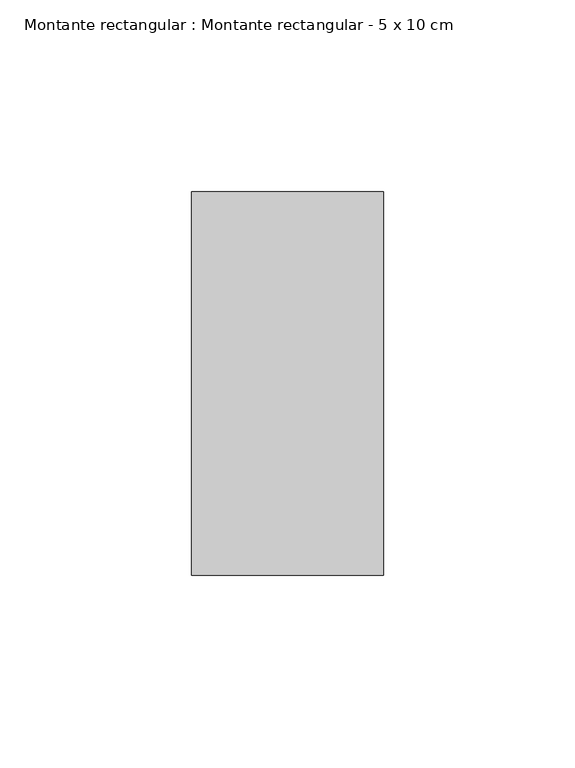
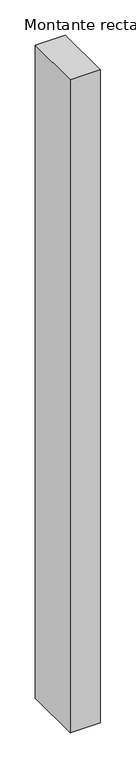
"""IFC4 building model written with IfcOpenShell, lengths in millimetres: member geometry, Montante rectangular : Montante rectangular - 5 x 10 cm."""

from ifc_helpers import new_model, si_unit, frame, origin, place, context, project, spatial, polyline, outline, extrude, source, transform, mapped, element, save


def montante_rectangular_montante_rectangular_5_x_10_cm_1b5bfa0b(model_context):
    return source(origin(), model_context, "Body", "SweptSolid", [
        extrude(outline(polyline([(0.0, 50.0), (0.0, -50.0), (-50.0, -50.0), (-50.0, 50.0), (0.0, 50.0)])), frame((0.0, 0.0, -1136.8719368), z_axis=(0.0, 0.0, 1.0), x_axis=(1.0, 0.0, 0.0)), (0.0, 0.0, 1.0), 1136.8719368),
    ])


if __name__ == "__main__":
    model = new_model("IFC4")
    model_context = context("Model", 3, world=origin())
    ifc_project = project(units=[si_unit("LENGTHUNIT", "METRE", prefix="MILLI")], contexts=[model_context])
    site = spatial("IfcSite", under=ifc_project)
    building = spatial("IfcBuilding", under=site)
    placement = place(None, origin())
    montante_rectangular_montante_rectangular_5_x_10_cm_shape = montante_rectangular_montante_rectangular_5_x_10_cm_1b5bfa0b(model_context)
    element("IfcMember", 1, ObjectType="Montante rectangular : Montante rectangular - 5 x 10 cm", at=placement, inside=building, context=model_context, shape_type="MappedRepresentation", body=[
        mapped(montante_rectangular_montante_rectangular_5_x_10_cm_shape, transform((0.0, 0.0, 0.0), x_axis=(1.0, 0.0, 0.0), y_axis=(0.0, 1.0, 0.0), z_axis=(0.0, 0.0, 1.0))),
    ])
    save(model, "model.ifc")
